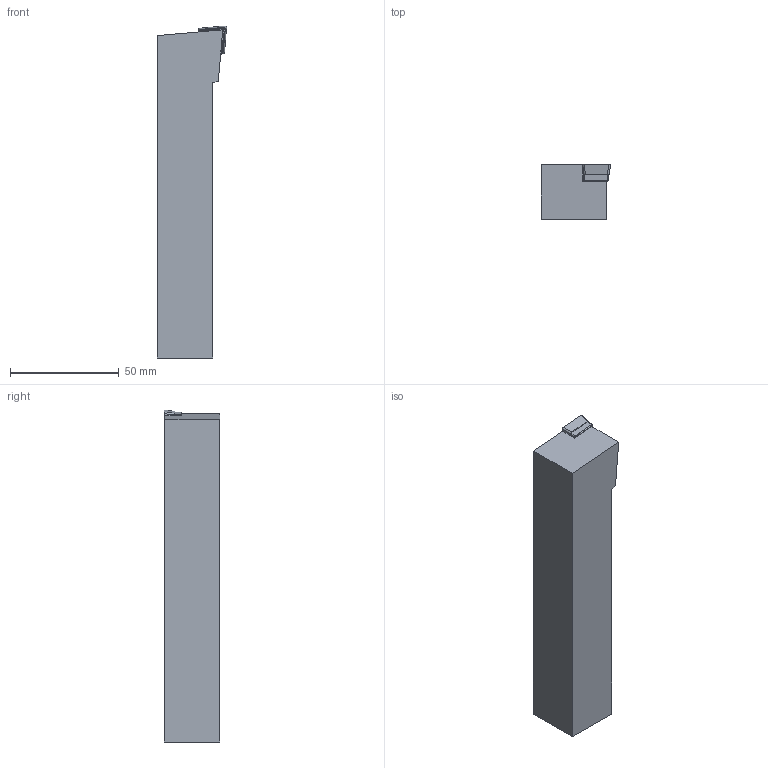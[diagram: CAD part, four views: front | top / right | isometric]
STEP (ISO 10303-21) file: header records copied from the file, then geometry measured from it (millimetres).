
FILE_DESCRIPTION (( 'STEP AP203' ), '1' );
FILE_NAME ('SCLCR16-4D-HAAS.STEP', '2020-11-06T06:49:31', ( '' ), ( '' ), 'SwSTEP 2.0', 'SolidWorks 2015', '' );
FILE_SCHEMA (( 'CONFIG_CONTROL_DESIGN' ));
Length unit declared in the file: millimetre
Products named in the file (5): CCMT120408_ル遽; SCLCR16-4D-HAAS; SC42S; SCLCR16-4D-HAAS_ル遽
Assembly tree (4 placements, depth 3):
  SCLCR16-4D-HAAS
    SCLCR16-4D-HAAS
      SCLCR16-4D-HAAS_ル遽
      SC42S
      CCMT120408_ル遽
Bounding box: 31.78 x 25.4 x 152.43 mm (x, y, z)
Volume: 98168.4 mm3; surface area: 17757.7 mm2
Topology: 3 solids, 3 shells, 46 faces, 108 edges, 69 vertices
Faces by surface type: plane 30, cylinder 11, cone 5
Full cylindrical faces by diameter (mm): 5.5 x1, 6.4 x1, 8.2 x1
Entity records: 1805 total; most frequent: CARTESIAN_POINT 249, DIRECTION 222, ORIENTED_EDGE 206, EDGE_CURVE 103, VECTOR 76, LINE 76, AXIS2_PLACEMENT_3D 73, VERTEX_POINT 68
